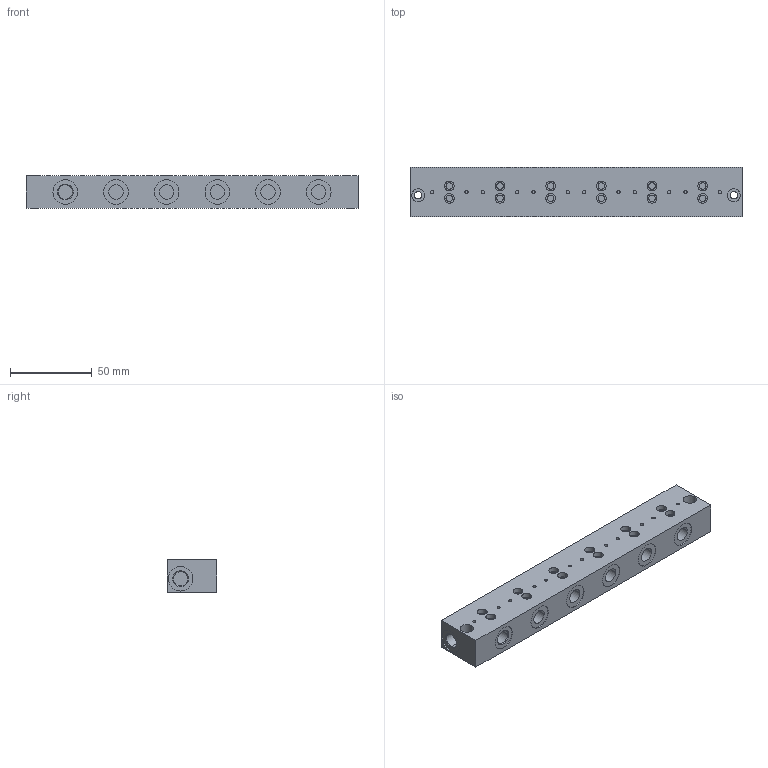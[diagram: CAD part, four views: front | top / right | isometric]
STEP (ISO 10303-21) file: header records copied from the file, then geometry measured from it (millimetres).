
FILE_DESCRIPTION((''),'2;1');
FILE_NAME('1825503241','2015-04-23T',('vol1hc'),(''),'PRO/ENGINEER BY PARAMETRIC TECHNOLOGY CORPORATION, 2011490','PRO/ENGINEER BY PARAMETRIC TECHNOLOGY CORPORATION, 2011490','');
FILE_SCHEMA(('AUTOMOTIVE_DESIGN_CC2 { 1 2 10303 214 -1 1 5 2 }'));
Length unit declared in the file: millimetre
Products named in the file (1): 1825503241
Bounding box: 203 x 30 x 20 mm (x, y, z)
Volume: 114312.7 mm3; surface area: 25995.1 mm2
Topology: 1 solids, 1 shells, 178 faces, 360 edges, 238 vertices
Faces by surface type: cylinder 112, plane 60, cone 6
Entity records: 4783 total; most frequent: DIRECTION 946, CARTESIAN_POINT 776, ORIENTED_EDGE 720, AXIS2_PLACEMENT_3D 408, EDGE_CURVE 360, VERTEX_POINT 238, EDGE_LOOP 236, CIRCLE 230
